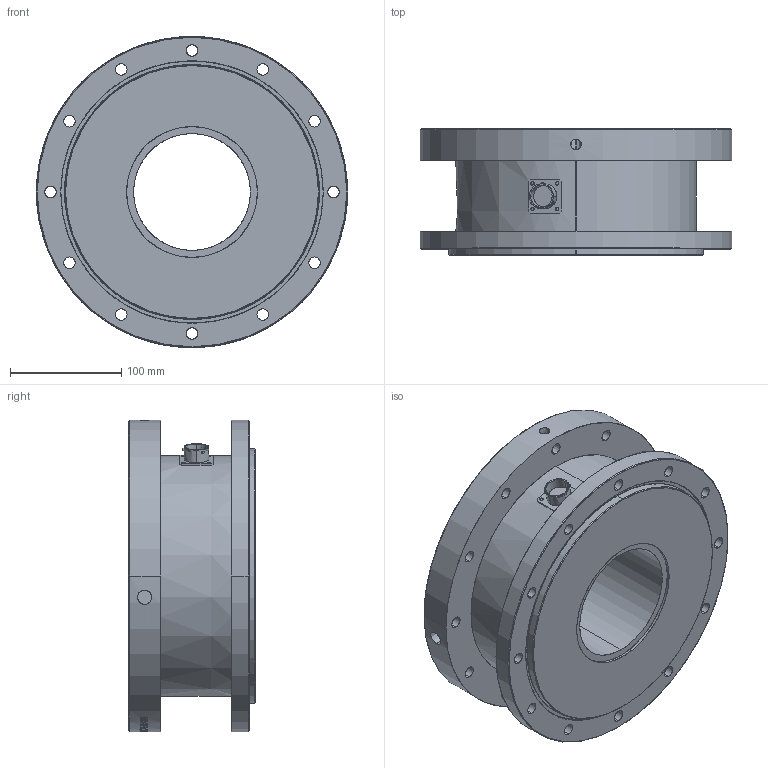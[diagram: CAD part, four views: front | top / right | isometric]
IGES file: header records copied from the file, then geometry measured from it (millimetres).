
Start section: SolidWorks IGES file using analytic representation for surfaces
Global section: file name: Q:\~DRAWING FILES\Reaction Torque Sensors\HD-REAC\HD-REAC - CAD Exports\HD-REAC-ASSY - Reaction Torque Sensor Assembly.IGS; native system: SolidWorks 2016; preprocessor: SolidWorks 2016; author: jromanelli; date: 171128.152051; units: inch
Bounding box: 279.4 x 113.51 x 279.4 mm (x, y, z)
Surface area: 300554.8 mm2 (no closed solid volume)
Topology: 0 solids, 0 shells, 378 faces, 6469 edges, 6469 vertices
Faces by surface type: bspline 254, revolution 124
